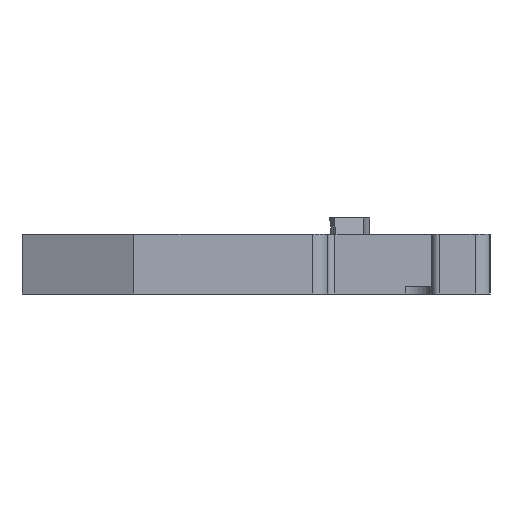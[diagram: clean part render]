
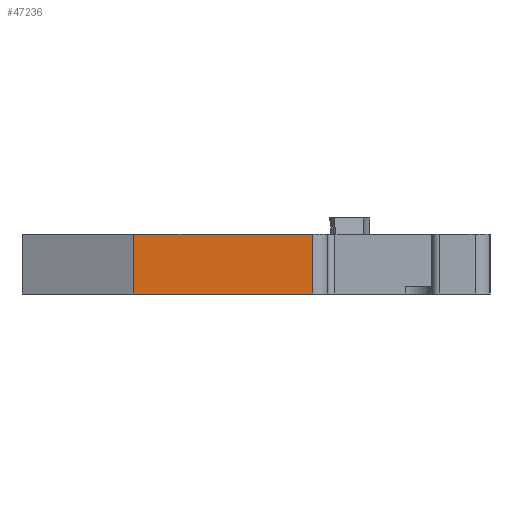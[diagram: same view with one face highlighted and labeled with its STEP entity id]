
A CAD part, left-side view. The second image highlights one B-rep face of the part: STEP entity #47236.
In plain terms, the highlighted planar face has unit normal (-1, 0, 0).
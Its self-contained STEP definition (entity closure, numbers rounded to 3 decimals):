
#5278 = EDGE_LOOP ( 'NONE', ( #28130, #19859, #9472, #43448 ) ) ;
#5788 = PLANE ( 'NONE',  #47168 ) ;
#9472 = ORIENTED_EDGE ( 'NONE', *, *, #14488, .F. ) ;
#9490 = LINE ( 'NONE', #13070, #23934 ) ;
#10546 = FACE_OUTER_BOUND ( 'NONE', #5278, .T. ) ;
#11496 = LINE ( 'NONE', #20974, #27672 ) ;
#11576 = VECTOR ( 'NONE', #28008, 1000. ) ;
#12341 = VECTOR ( 'NONE', #18056, 1000. ) ;
#13070 = CARTESIAN_POINT ( 'NONE',  ( -0.268, 34.117, 39.839 ) ) ;
#13082 = DIRECTION ( 'NONE',  ( 0., 1., 0. ) ) ;
#13239 = DIRECTION ( 'NONE',  ( 1., 0., 0. ) ) ;
#14488 = EDGE_CURVE ( 'NONE', #38662, #21390, #16781, .T. ) ;
#16760 = DIRECTION ( 'NONE',  ( 0., 0., -1. ) ) ;
#16781 = LINE ( 'NONE', #20750, #11576 ) ;
#18056 = DIRECTION ( 'NONE',  ( 0., -1., 0. ) ) ;
#19175 = VERTEX_POINT ( 'NONE', #31319 ) ;
#19859 = ORIENTED_EDGE ( 'NONE', *, *, #23229, .F. ) ;
#20750 = CARTESIAN_POINT ( 'NONE',  ( -0.268, 46.117, 39.839 ) ) ;
#20974 = CARTESIAN_POINT ( 'NONE',  ( -0.268, 46.117, 39.839 ) ) ;
#21390 = VERTEX_POINT ( 'NONE', #42822 ) ;
#23229 = EDGE_CURVE ( 'NONE', #21390, #41841, #9490, .T. ) ;
#23934 = VECTOR ( 'NONE', #16760, 1000. ) ;
#27672 = VECTOR ( 'NONE', #46718, 1000. ) ;
#28008 = DIRECTION ( 'NONE',  ( 0., -1., 0. ) ) ;
#28130 = ORIENTED_EDGE ( 'NONE', *, *, #34059, .T. ) ;
#28510 = LINE ( 'NONE', #40302, #12341 ) ;
#31319 = CARTESIAN_POINT ( 'NONE',  ( -0.268, 46.117, 35.839 ) ) ;
#32451 = EDGE_CURVE ( 'NONE', #38662, #19175, #11496, .T. ) ;
#34059 = EDGE_CURVE ( 'NONE', #19175, #41841, #28510, .T. ) ;
#35303 = CARTESIAN_POINT ( 'NONE',  ( -0.268, 46.117, 39.839 ) ) ;
#38662 = VERTEX_POINT ( 'NONE', #44034 ) ;
#38938 = CARTESIAN_POINT ( 'NONE',  ( -0.268, 34.117, 35.839 ) ) ;
#40302 = CARTESIAN_POINT ( 'NONE',  ( -0.268, 46.117, 35.839 ) ) ;
#41841 = VERTEX_POINT ( 'NONE', #38938 ) ;
#42822 = CARTESIAN_POINT ( 'NONE',  ( -0.268, 34.117, 39.839 ) ) ;
#43448 = ORIENTED_EDGE ( 'NONE', *, *, #32451, .T. ) ;
#44034 = CARTESIAN_POINT ( 'NONE',  ( -0.268, 46.117, 39.839 ) ) ;
#46718 = DIRECTION ( 'NONE',  ( 0., 0., -1. ) ) ;
#47168 = AXIS2_PLACEMENT_3D ( 'NONE', #35303, #13239, #13082 ) ;
#47236 = ADVANCED_FACE ( 'NONE', ( #10546 ), #5788, .F. ) ;
